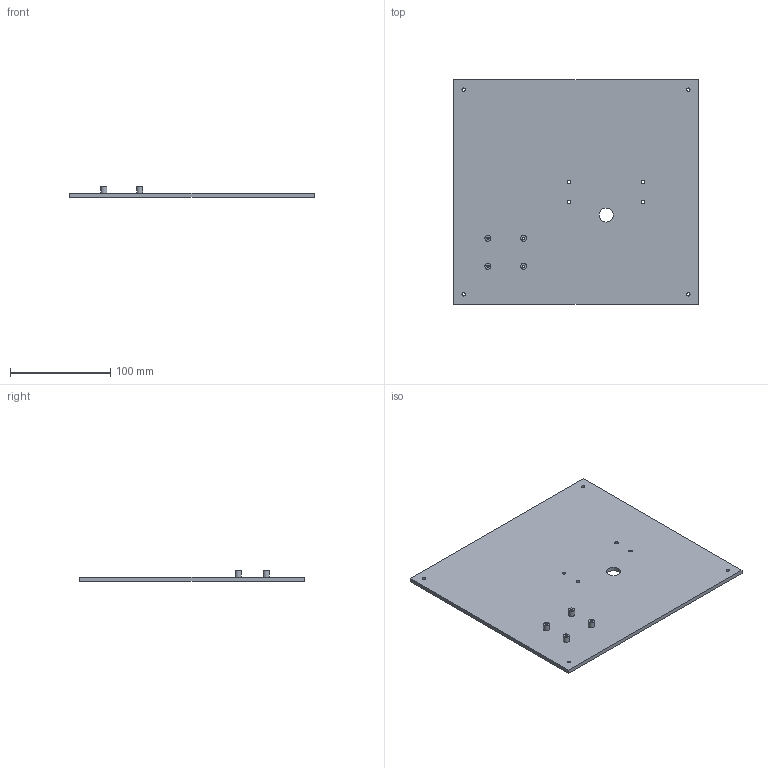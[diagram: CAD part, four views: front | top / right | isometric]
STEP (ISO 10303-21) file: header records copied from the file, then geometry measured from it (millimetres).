
FILE_DESCRIPTION(('Open CASCADE Model'),'2;1');
FILE_NAME('Open CASCADE Shape Model','2026-07-24T14:41:32',('Author'),( 'Open CASCADE'),'Open CASCADE STEP processor 7.9','build123d', 'Unknown');
FILE_SCHEMA(('AUTOMOTIVE_DESIGN { 1 0 10303 214 1 1 1 1 }'));
Length unit declared in the file: millimetre
Products named in the file (1): COMPOUND
Bounding box: 244 x 224 x 10 mm (x, y, z)
Volume: 218244.2 mm3; surface area: 113819 mm2
Topology: 1 solids, 1 shells, 27 faces, 63 edges, 42 vertices
Faces by surface type: cylinder 17, plane 10
Full cylindrical faces by diameter (mm): 2.2 x4, 3.4 x8, 6 x4, 14 x1
Entity records: 1672 total; most frequent: DIRECTION 279, CARTESIAN_POINT 259, ORIENTED_EDGE 126, PCURVE 126, DEFINITIONAL_REPRESENTATION 126, LINE 121, VECTOR 121, CIRCLE 68
